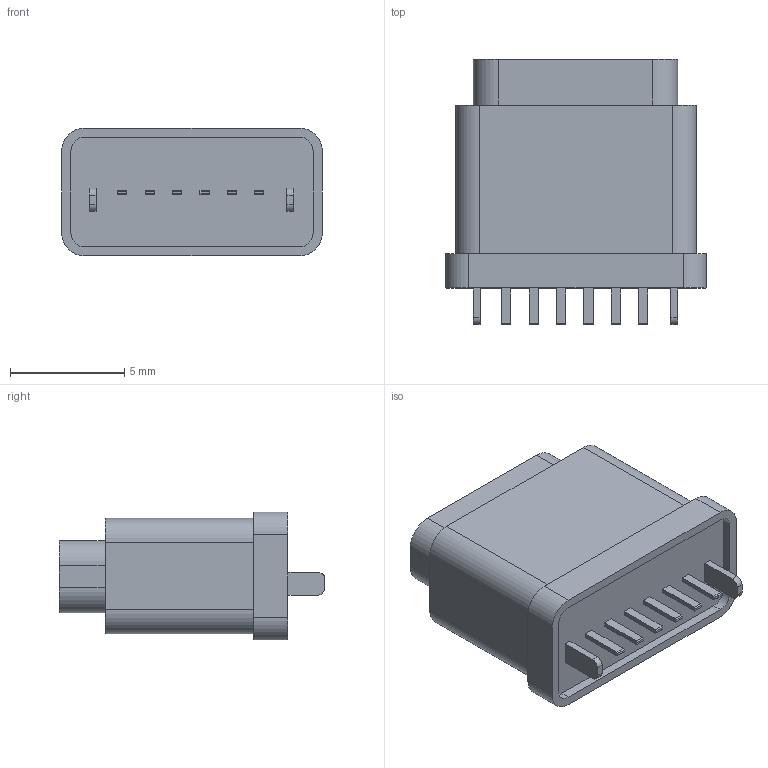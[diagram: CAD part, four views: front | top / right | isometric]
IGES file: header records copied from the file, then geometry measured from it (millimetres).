
Start section:  PTC IGES file: ATCF-06-003.igs
Global section: file name: ATCF-06-003.igs; native system: Creo Parametric by PTC Inc.; preprocessor: 2019080; author: Administrator; organization: Unknown; date: 20220621.190629; units: millimetre
Bounding box: 11.4 x 11.61 x 5.6 mm (x, y, z)
Surface area: 606.5 mm2 (no closed solid volume)
Topology: 0 solids, 0 shells, 223 faces, 1186 edges, 1186 vertices
Faces by surface type: bspline 139, revolution 84
